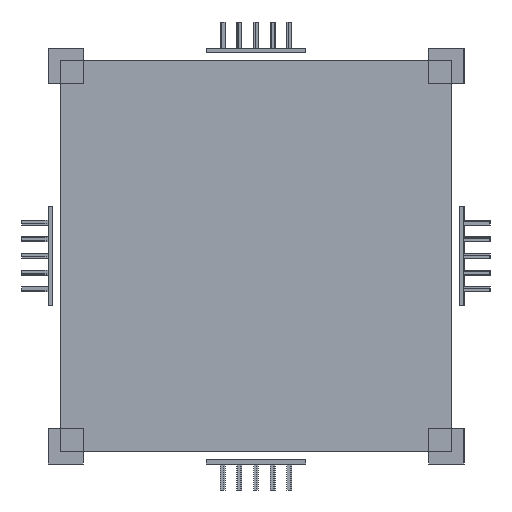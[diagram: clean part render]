
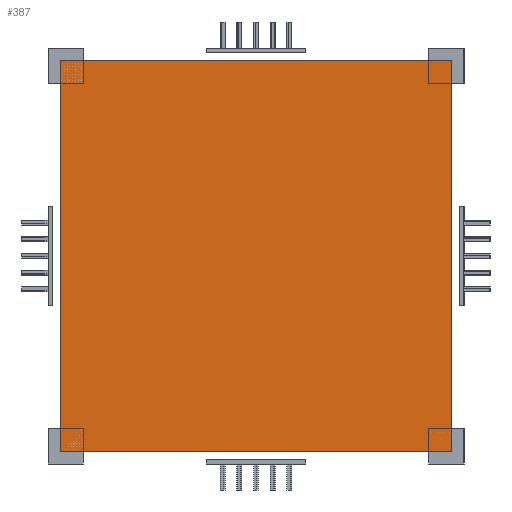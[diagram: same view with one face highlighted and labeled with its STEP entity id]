
A CAD part, left-side view. The second image highlights one B-rep face of the part: STEP entity #387.
In plain terms, the highlighted planar face has unit normal (-1, 0, 0).
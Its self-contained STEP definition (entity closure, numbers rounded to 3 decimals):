
#387 = ADVANCED_FACE('',(#388),#402,.F.);
#388 = FACE_BOUND('',#389,.F.);
#389 = EDGE_LOOP('',(#390,#425,#453,#481));
#390 = ORIENTED_EDGE('',*,*,#391,.F.);
#391 = EDGE_CURVE('',#392,#394,#396,.T.);
#392 = VERTEX_POINT('',#393);
#393 = CARTESIAN_POINT('',(0.,-47.,-47.));
#394 = VERTEX_POINT('',#395);
#395 = CARTESIAN_POINT('',(0.,-47.,47.));
#396 = SURFACE_CURVE('',#397,(#401,#413),.PCURVE_S1.);
#397 = LINE('',#398,#399);
#398 = CARTESIAN_POINT('',(0.,-47.,-47.));
#399 = VECTOR('',#400,1.);
#400 = DIRECTION('',(0.,0.,1.));
#401 = PCURVE('',#402,#407);
#402 = PLANE('',#403);
#403 = AXIS2_PLACEMENT_3D('',#404,#405,#406);
#404 = CARTESIAN_POINT('',(0.,-47.,-47.));
#405 = DIRECTION('',(1.,0.,0.));
#406 = DIRECTION('',(0.,0.,1.));
#407 = DEFINITIONAL_REPRESENTATION('',(#408),#412);
#408 = LINE('',#409,#410);
#409 = CARTESIAN_POINT('',(0.,0.));
#410 = VECTOR('',#411,1.);
#411 = DIRECTION('',(1.,0.));
#412 = ( GEOMETRIC_REPRESENTATION_CONTEXT(2) 
PARAMETRIC_REPRESENTATION_CONTEXT() REPRESENTATION_CONTEXT('2D SPACE',''
  ) );
#413 = PCURVE('',#414,#419);
#414 = PLANE('',#415);
#415 = AXIS2_PLACEMENT_3D('',#416,#417,#418);
#416 = CARTESIAN_POINT('',(0.,-47.,-47.));
#417 = DIRECTION('',(0.,1.,0.));
#418 = DIRECTION('',(0.,0.,1.));
#419 = DEFINITIONAL_REPRESENTATION('',(#420),#424);
#420 = LINE('',#421,#422);
#421 = CARTESIAN_POINT('',(0.,0.));
#422 = VECTOR('',#423,1.);
#423 = DIRECTION('',(1.,0.));
#424 = ( GEOMETRIC_REPRESENTATION_CONTEXT(2) 
PARAMETRIC_REPRESENTATION_CONTEXT() REPRESENTATION_CONTEXT('2D SPACE',''
  ) );
#425 = ORIENTED_EDGE('',*,*,#426,.T.);
#426 = EDGE_CURVE('',#392,#427,#429,.T.);
#427 = VERTEX_POINT('',#428);
#428 = CARTESIAN_POINT('',(0.,47.,-47.));
#429 = SURFACE_CURVE('',#430,(#434,#441),.PCURVE_S1.);
#430 = LINE('',#431,#432);
#431 = CARTESIAN_POINT('',(0.,-47.,-47.));
#432 = VECTOR('',#433,1.);
#433 = DIRECTION('',(0.,1.,0.));
#434 = PCURVE('',#402,#435);
#435 = DEFINITIONAL_REPRESENTATION('',(#436),#440);
#436 = LINE('',#437,#438);
#437 = CARTESIAN_POINT('',(0.,0.));
#438 = VECTOR('',#439,1.);
#439 = DIRECTION('',(0.,-1.));
#440 = ( GEOMETRIC_REPRESENTATION_CONTEXT(2) 
PARAMETRIC_REPRESENTATION_CONTEXT() REPRESENTATION_CONTEXT('2D SPACE',''
  ) );
#441 = PCURVE('',#442,#447);
#442 = PLANE('',#443);
#443 = AXIS2_PLACEMENT_3D('',#444,#445,#446);
#444 = CARTESIAN_POINT('',(0.,-47.,-47.));
#445 = DIRECTION('',(0.,0.,1.));
#446 = DIRECTION('',(1.,0.,0.));
#447 = DEFINITIONAL_REPRESENTATION('',(#448),#452);
#448 = LINE('',#449,#450);
#449 = CARTESIAN_POINT('',(0.,0.));
#450 = VECTOR('',#451,1.);
#451 = DIRECTION('',(0.,1.));
#452 = ( GEOMETRIC_REPRESENTATION_CONTEXT(2) 
PARAMETRIC_REPRESENTATION_CONTEXT() REPRESENTATION_CONTEXT('2D SPACE',''
  ) );
#453 = ORIENTED_EDGE('',*,*,#454,.T.);
#454 = EDGE_CURVE('',#427,#455,#457,.T.);
#455 = VERTEX_POINT('',#456);
#456 = CARTESIAN_POINT('',(0.,47.,47.));
#457 = SURFACE_CURVE('',#458,(#462,#469),.PCURVE_S1.);
#458 = LINE('',#459,#460);
#459 = CARTESIAN_POINT('',(0.,47.,-47.));
#460 = VECTOR('',#461,1.);
#461 = DIRECTION('',(0.,0.,1.));
#462 = PCURVE('',#402,#463);
#463 = DEFINITIONAL_REPRESENTATION('',(#464),#468);
#464 = LINE('',#465,#466);
#465 = CARTESIAN_POINT('',(0.,-94.));
#466 = VECTOR('',#467,1.);
#467 = DIRECTION('',(1.,0.));
#468 = ( GEOMETRIC_REPRESENTATION_CONTEXT(2) 
PARAMETRIC_REPRESENTATION_CONTEXT() REPRESENTATION_CONTEXT('2D SPACE',''
  ) );
#469 = PCURVE('',#470,#475);
#470 = PLANE('',#471);
#471 = AXIS2_PLACEMENT_3D('',#472,#473,#474);
#472 = CARTESIAN_POINT('',(0.,47.,-47.));
#473 = DIRECTION('',(0.,1.,0.));
#474 = DIRECTION('',(0.,0.,1.));
#475 = DEFINITIONAL_REPRESENTATION('',(#476),#480);
#476 = LINE('',#477,#478);
#477 = CARTESIAN_POINT('',(0.,0.));
#478 = VECTOR('',#479,1.);
#479 = DIRECTION('',(1.,0.));
#480 = ( GEOMETRIC_REPRESENTATION_CONTEXT(2) 
PARAMETRIC_REPRESENTATION_CONTEXT() REPRESENTATION_CONTEXT('2D SPACE',''
  ) );
#481 = ORIENTED_EDGE('',*,*,#482,.F.);
#482 = EDGE_CURVE('',#394,#455,#483,.T.);
#483 = SURFACE_CURVE('',#484,(#488,#495),.PCURVE_S1.);
#484 = LINE('',#485,#486);
#485 = CARTESIAN_POINT('',(0.,-47.,47.));
#486 = VECTOR('',#487,1.);
#487 = DIRECTION('',(0.,1.,0.));
#488 = PCURVE('',#402,#489);
#489 = DEFINITIONAL_REPRESENTATION('',(#490),#494);
#490 = LINE('',#491,#492);
#491 = CARTESIAN_POINT('',(94.,0.));
#492 = VECTOR('',#493,1.);
#493 = DIRECTION('',(0.,-1.));
#494 = ( GEOMETRIC_REPRESENTATION_CONTEXT(2) 
PARAMETRIC_REPRESENTATION_CONTEXT() REPRESENTATION_CONTEXT('2D SPACE',''
  ) );
#495 = PCURVE('',#496,#501);
#496 = PLANE('',#497);
#497 = AXIS2_PLACEMENT_3D('',#498,#499,#500);
#498 = CARTESIAN_POINT('',(0.,-47.,47.));
#499 = DIRECTION('',(0.,0.,1.));
#500 = DIRECTION('',(1.,0.,0.));
#501 = DEFINITIONAL_REPRESENTATION('',(#502),#506);
#502 = LINE('',#503,#504);
#503 = CARTESIAN_POINT('',(0.,0.));
#504 = VECTOR('',#505,1.);
#505 = DIRECTION('',(0.,1.));
#506 = ( GEOMETRIC_REPRESENTATION_CONTEXT(2) 
PARAMETRIC_REPRESENTATION_CONTEXT() REPRESENTATION_CONTEXT('2D SPACE',''
  ) );
